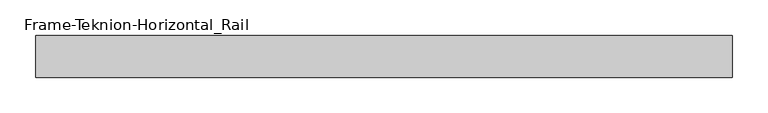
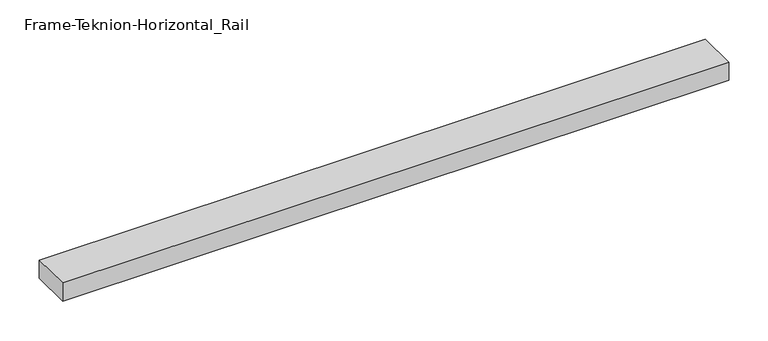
"""IFC4 building model written with IfcOpenShell, lengths in millimetres: proxy geometry, Frame-Teknion-Horizontal_Rail : FPKK."""

from ifc_helpers import new_model, si_unit, frame, origin, place, context, project, spatial, polyline, outline, extrude, source, transform, mapped, element, save


def frame_teknion_horizontal_rail_569d168c(model_context):
    return source(origin(), model_context, "Body", "SweptSolid", [
        extrude(outline(polyline([(-487.0152344, -29.2199219), (-487.0152344, 29.2199219), (487.0152344, 29.2199219), (487.0152344, -29.2199219), (-487.0152344, -29.2199219)])), frame((0.0, 0.0, -13.9898438), z_axis=(0.0, 0.0, 1.0), x_axis=(1.0, 0.0, 0.0)), (0.0, 0.0, 1.0), 27.9796875),
    ])


if __name__ == "__main__":
    model = new_model("IFC4")
    model_context = context("Model", 3, world=origin())
    ifc_project = project(units=[si_unit("LENGTHUNIT", "METRE", prefix="MILLI")], contexts=[model_context])
    site = spatial("IfcSite", under=ifc_project)
    building = spatial("IfcBuilding", under=site)
    placement = place(None, origin())
    frame_teknion_horizontal_rail_shape = frame_teknion_horizontal_rail_569d168c(model_context)
    element("IfcBuildingElementProxy", 1, Name="Frame-Teknion-Horizontal_Rail : FPKK", ObjectType="Frame-Teknion-Horizontal_Rail : FPKK", at=placement, inside=building, context=model_context, shape_type="MappedRepresentation", body=[
        mapped(frame_teknion_horizontal_rail_shape, transform((0.0, 0.0, 0.0), x_axis=(1.0, 0.0, 0.0), y_axis=(0.0, 1.0, 0.0), z_axis=(0.0, 0.0, 1.0))),
    ])
    save(model, "model.ifc")
